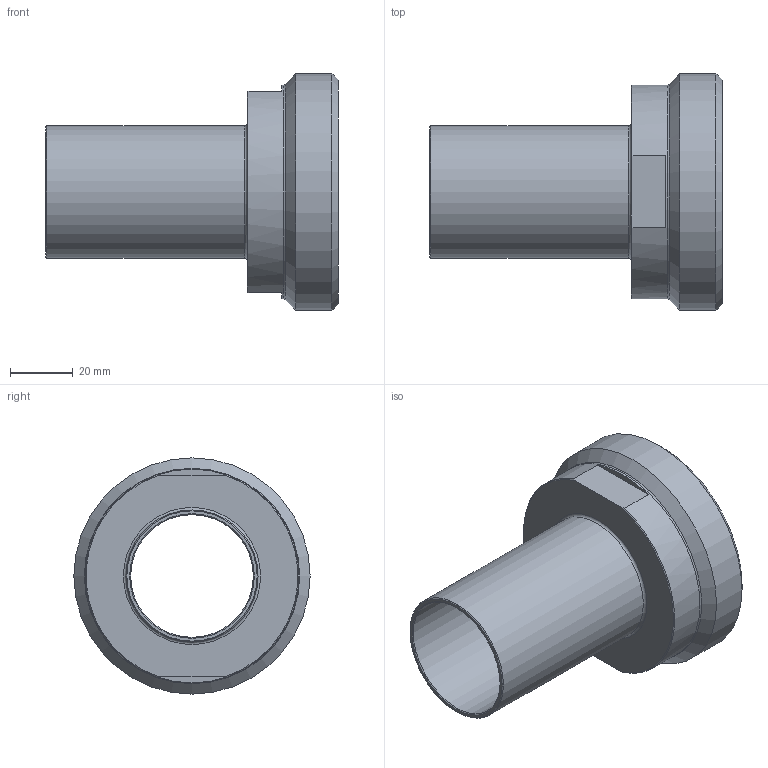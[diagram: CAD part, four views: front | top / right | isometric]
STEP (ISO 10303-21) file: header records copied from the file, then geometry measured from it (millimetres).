
FILE_DESCRIPTION(/* description */ (''),/* implementation_level */ '2;1');
FILE_NAME(/* name */ 'C:\Users\cad\Desktop\Zeichnungen neu von Ralph\3D_Kupplung_R666-PG\3D_R666-PG-42-DN65_17113690.stp',/* time_stamp */ '2021-06-23T15:46:16+02:00',/* author */ ('cad'),/* organization */ (''),/* preprocessor_version */ 'ST-DEVELOPER v18.1',/* originating_system */ 'Autodesk Inventor 2022',/* authorisation */ '');
FILE_SCHEMA (('AUTOMOTIVE_DESIGN { 1 0 10303 214 3 1 1 }'));
Length unit declared in the file: millimetre
Products named in the file (1): 3D_R666-PG-42-DN65_17113690
Bounding box: 93 x 75.1 x 75.1 mm (x, y, z)
Volume: 93871 mm3; surface area: 31936.7 mm2
Topology: 1 solids, 1 shells, 20 faces, 50 edges, 33 vertices
Faces by surface type: plane 7, cone 7, cylinder 4, torus 2
Full cylindrical faces by diameter (mm): 39 x1, 42 x1, 68 x1, 75.1 x1
Entity records: 656 total; most frequent: DIRECTION 117, CARTESIAN_POINT 112, ORIENTED_EDGE 100, EDGE_CURVE 50, AXIS2_PLACEMENT_3D 50, VERTEX_POINT 33, CIRCLE 29, EDGE_LOOP 23
